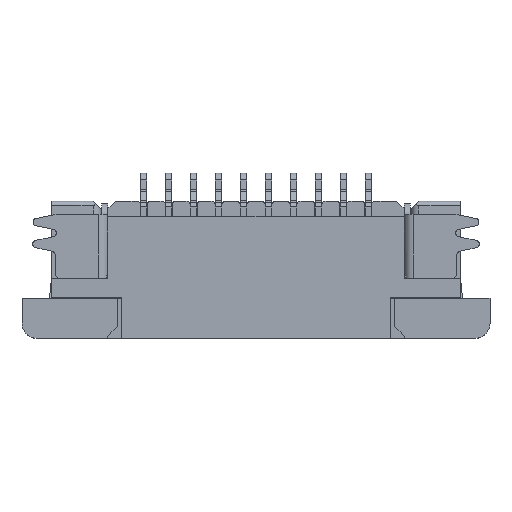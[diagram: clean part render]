
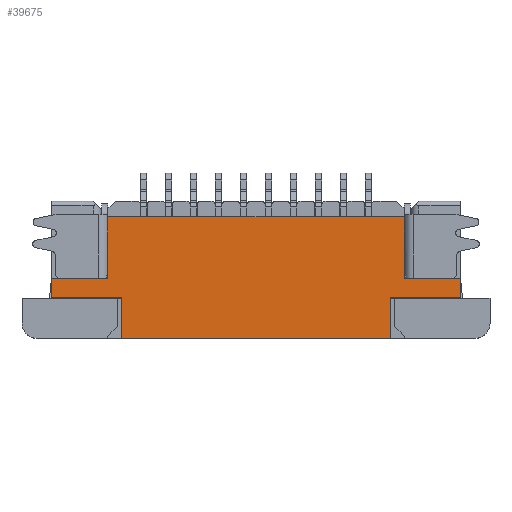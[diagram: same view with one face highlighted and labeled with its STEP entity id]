
A CAD part, top view. The second image highlights one B-rep face of the part: STEP entity #39675.
In plain terms, the highlighted planar face has unit normal (0, 0, 1).
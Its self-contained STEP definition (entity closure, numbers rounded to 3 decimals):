
#1004 = CARTESIAN_POINT ( 'NONE',  ( -7.35, -0.27, 1. ) ) ;
#1024 = CARTESIAN_POINT ( 'NONE',  ( 3.52, -0.87, 1. ) ) ;
#1110 = CARTESIAN_POINT ( 'NONE',  ( 3.95, 1.7, 1. ) ) ;
#1642 = LINE ( 'NONE', #52732, #42130 ) ;
#2124 = VECTOR ( 'NONE', #21568, 1000. ) ;
#2213 = FACE_OUTER_BOUND ( 'NONE', #50508, .T. ) ;
#3645 = CARTESIAN_POINT ( 'NONE',  ( 5.75, -0.87, 1. ) ) ;
#4071 = VERTEX_POINT ( 'NONE', #30110 ) ;
#4906 = VECTOR ( 'NONE', #30938, 1000. ) ;
#4951 = VECTOR ( 'NONE', #36224, 1000. ) ;
#5801 = CARTESIAN_POINT ( 'NONE',  ( -5.12, -2.2, 1. ) ) ;
#5946 = CARTESIAN_POINT ( 'NONE',  ( -5.12, -2.2, 1. ) ) ;
#5989 = VECTOR ( 'NONE', #12535, 1000. ) ;
#6539 = LINE ( 'NONE', #40215, #8978 ) ;
#6597 = EDGE_CURVE ( 'NONE', #32954, #46891, #17846, .T. ) ;
#8011 = ORIENTED_EDGE ( 'NONE', *, *, #30895, .T. ) ;
#8605 = VECTOR ( 'NONE', #31821, 1000. ) ;
#8978 = VECTOR ( 'NONE', #36086, 1000. ) ;
#9950 = LINE ( 'NONE', #5801, #4906 ) ;
#10351 = VERTEX_POINT ( 'NONE', #30808 ) ;
#10562 = LINE ( 'NONE', #24326, #8605 ) ;
#10571 = EDGE_CURVE ( 'NONE', #13059, #10351, #16685, .T. ) ;
#10728 = ORIENTED_EDGE ( 'NONE', *, *, #36212, .F. ) ;
#11390 = VECTOR ( 'NONE', #18660, 1000. ) ;
#11790 = CARTESIAN_POINT ( 'NONE',  ( -5.55, 1.7, 1. ) ) ;
#12402 = DIRECTION ( 'NONE',  ( 0., 0., 1. ) ) ;
#12535 = DIRECTION ( 'NONE',  ( -1., 0., 0. ) ) ;
#13059 = VERTEX_POINT ( 'NONE', #35366 ) ;
#13084 = CARTESIAN_POINT ( 'NONE',  ( 5.75, -0.27, 1. ) ) ;
#13160 = EDGE_CURVE ( 'NONE', #40160, #53713, #18529, .T. ) ;
#13275 = LINE ( 'NONE', #1110, #15580 ) ;
#13881 = DIRECTION ( 'NONE',  ( -1., 0., 0. ) ) ;
#15129 = VERTEX_POINT ( 'NONE', #1004 ) ;
#15580 = VECTOR ( 'NONE', #30667, 1000. ) ;
#16685 = LINE ( 'NONE', #13084, #5989 ) ;
#17754 = CARTESIAN_POINT ( 'NONE',  ( -7.35, -0.87, 1. ) ) ;
#17846 = LINE ( 'NONE', #22501, #31001 ) ;
#18137 = ORIENTED_EDGE ( 'NONE', *, *, #10571, .T. ) ;
#18529 = LINE ( 'NONE', #48058, #2124 ) ;
#18660 = DIRECTION ( 'NONE',  ( 0., -1., 0. ) ) ;
#19066 = PLANE ( 'NONE',  #35907 ) ;
#19237 = VERTEX_POINT ( 'NONE', #5946 ) ;
#21568 = DIRECTION ( 'NONE',  ( 1., 0., 0. ) ) ;
#22501 = CARTESIAN_POINT ( 'NONE',  ( 3.52, -2.2, 1. ) ) ;
#23756 = VERTEX_POINT ( 'NONE', #42448 ) ;
#24170 = CARTESIAN_POINT ( 'NONE',  ( 5.75, -0.87, 1. ) ) ;
#24326 = CARTESIAN_POINT ( 'NONE',  ( 5.75, -0.87, 1. ) ) ;
#25358 = EDGE_CURVE ( 'NONE', #53244, #15129, #1642, .T. ) ;
#26112 = DIRECTION ( 'NONE',  ( 0., 1., 0. ) ) ;
#26363 = EDGE_CURVE ( 'NONE', #53713, #10351, #13275, .T. ) ;
#27572 = DIRECTION ( 'NONE',  ( 0., 1., 0. ) ) ;
#28676 = ORIENTED_EDGE ( 'NONE', *, *, #34901, .T. ) ;
#29793 = DIRECTION ( 'NONE',  ( 1., 0., 0. ) ) ;
#30110 = CARTESIAN_POINT ( 'NONE',  ( -5.12, -0.87, 1. ) ) ;
#30667 = DIRECTION ( 'NONE',  ( 0., -1., 0. ) ) ;
#30808 = CARTESIAN_POINT ( 'NONE',  ( 3.95, -0.27, 1. ) ) ;
#30895 = EDGE_CURVE ( 'NONE', #40160, #23756, #35770, .T. ) ;
#30938 = DIRECTION ( 'NONE',  ( 0., 1., 0. ) ) ;
#31001 = VECTOR ( 'NONE', #26112, 1000. ) ;
#31182 = ORIENTED_EDGE ( 'NONE', *, *, #13160, .F. ) ;
#31591 = VECTOR ( 'NONE', #44079, 1000. ) ;
#31628 = CARTESIAN_POINT ( 'NONE',  ( -5.55, 1.7, 1. ) ) ;
#31821 = DIRECTION ( 'NONE',  ( -1., 0., 0. ) ) ;
#32954 = VERTEX_POINT ( 'NONE', #43385 ) ;
#34901 = EDGE_CURVE ( 'NONE', #19237, #32954, #36758, .T. ) ;
#35346 = CARTESIAN_POINT ( 'NONE',  ( 3.95, 1.7, 1. ) ) ;
#35366 = CARTESIAN_POINT ( 'NONE',  ( 5.75, -0.27, 1. ) ) ;
#35770 = LINE ( 'NONE', #31628, #11390 ) ;
#35907 = AXIS2_PLACEMENT_3D ( 'NONE', #35916, #12402, #29793 ) ;
#35916 = CARTESIAN_POINT ( 'NONE',  ( -1.6, 0., 1. ) ) ;
#36086 = DIRECTION ( 'NONE',  ( -1., 0., 0. ) ) ;
#36212 = EDGE_CURVE ( 'NONE', #19237, #4071, #9950, .T. ) ;
#36224 = DIRECTION ( 'NONE',  ( 1., 0., 0. ) ) ;
#36758 = LINE ( 'NONE', #44496, #4951 ) ;
#37257 = ORIENTED_EDGE ( 'NONE', *, *, #46533, .F. ) ;
#38164 = EDGE_CURVE ( 'NONE', #48565, #46891, #10562, .T. ) ;
#39143 = ORIENTED_EDGE ( 'NONE', *, *, #26363, .F. ) ;
#39675 = ADVANCED_FACE ( 'NONE', ( #2213 ), #19066, .T. ) ;
#40160 = VERTEX_POINT ( 'NONE', #11790 ) ;
#40215 = CARTESIAN_POINT ( 'NONE',  ( -5.55, -0.27, 1. ) ) ;
#42130 = VECTOR ( 'NONE', #27572, 1000. ) ;
#42448 = CARTESIAN_POINT ( 'NONE',  ( -5.55, -0.27, 1. ) ) ;
#42492 = EDGE_CURVE ( 'NONE', #48565, #13059, #45170, .T. ) ;
#43385 = CARTESIAN_POINT ( 'NONE',  ( 3.52, -2.2, 1. ) ) ;
#43400 = CARTESIAN_POINT ( 'NONE',  ( -5.12, -0.87, 1. ) ) ;
#44079 = DIRECTION ( 'NONE',  ( 0., 1., 0. ) ) ;
#44496 = CARTESIAN_POINT ( 'NONE',  ( -6.72, -2.2, 1. ) ) ;
#45170 = LINE ( 'NONE', #24170, #31591 ) ;
#46533 = EDGE_CURVE ( 'NONE', #4071, #53244, #51696, .T. ) ;
#46891 = VERTEX_POINT ( 'NONE', #1024 ) ;
#47024 = EDGE_CURVE ( 'NONE', #23756, #15129, #6539, .T. ) ;
#48058 = CARTESIAN_POINT ( 'NONE',  ( -7.15, 1.7, 1. ) ) ;
#48565 = VERTEX_POINT ( 'NONE', #3645 ) ;
#48719 = ORIENTED_EDGE ( 'NONE', *, *, #38164, .F. ) ;
#48761 = ORIENTED_EDGE ( 'NONE', *, *, #6597, .T. ) ;
#49322 = ORIENTED_EDGE ( 'NONE', *, *, #25358, .F. ) ;
#50508 = EDGE_LOOP ( 'NONE', ( #31182, #8011, #51998, #49322, #37257, #10728, #28676, #48761, #48719, #52682, #18137, #39143 ) ) ;
#51696 = LINE ( 'NONE', #43400, #53078 ) ;
#51998 = ORIENTED_EDGE ( 'NONE', *, *, #47024, .T. ) ;
#52682 = ORIENTED_EDGE ( 'NONE', *, *, #42492, .T. ) ;
#52732 = CARTESIAN_POINT ( 'NONE',  ( -7.35, -0.87, 1. ) ) ;
#53078 = VECTOR ( 'NONE', #13881, 1000. ) ;
#53244 = VERTEX_POINT ( 'NONE', #17754 ) ;
#53713 = VERTEX_POINT ( 'NONE', #35346 ) ;
